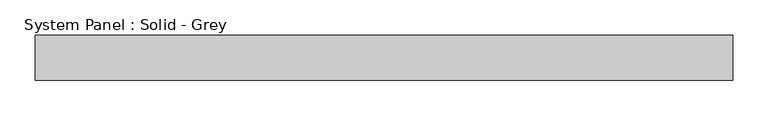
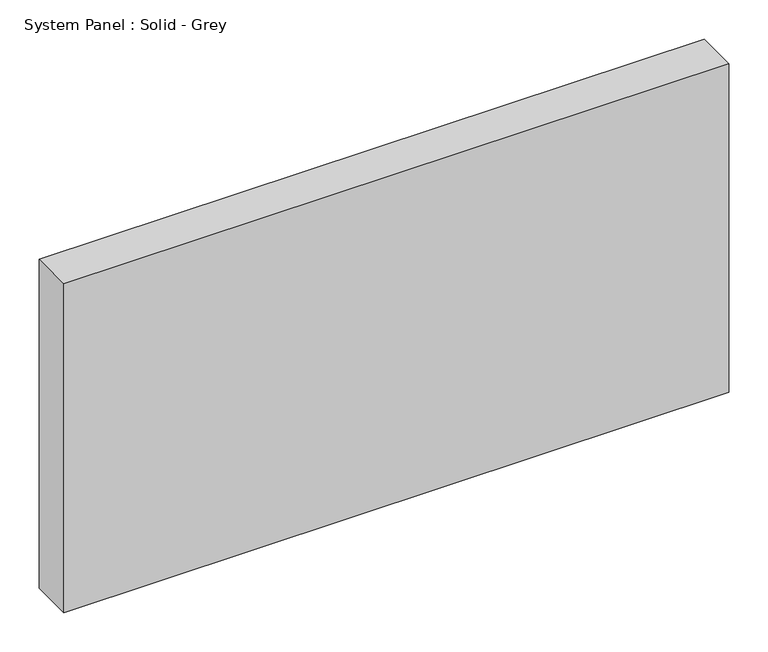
"""IFC4 building model written with IfcOpenShell, lengths in millimetres: plate geometry, System Panel : Solid - Grey."""

from ifc_helpers import new_model, si_unit, origin, origin_with_axes, place, context, project, spatial, polyline, outline, extrude, source, transform, mapped, element, save


def system_panel_solid_grey_5948a24a(model_context):
    return source(origin(), model_context, "Body", "SweptSolid", [
        extrude(outline(polyline([(492.1249999, -19.05), (-492.1249999, -19.05), (-492.1249999, 44.45), (492.1249999, 44.45), (492.1249999, -19.05)])), origin_with_axes(), (0.0, 0.0, 1.0), 514.35),
    ])


if __name__ == "__main__":
    model = new_model("IFC4")
    model_context = context("Model", 3, world=origin())
    ifc_project = project(units=[si_unit("LENGTHUNIT", "METRE", prefix="MILLI")], contexts=[model_context])
    site = spatial("IfcSite", under=ifc_project)
    building = spatial("IfcBuilding", under=site)
    placement = place(None, origin())
    system_panel_solid_grey_shape = system_panel_solid_grey_5948a24a(model_context)
    element("IfcPlate", 1, ObjectType="System Panel : Solid - Grey", at=placement, inside=building, context=model_context, shape_type="MappedRepresentation", body=[
        mapped(system_panel_solid_grey_shape, transform((0.0, 0.0, 0.0), x_axis=(1.0, 0.0, 0.0), y_axis=(0.0, 1.0, 0.0), z_axis=(0.0, 0.0, 1.0))),
    ])
    save(model, "model.ifc")
